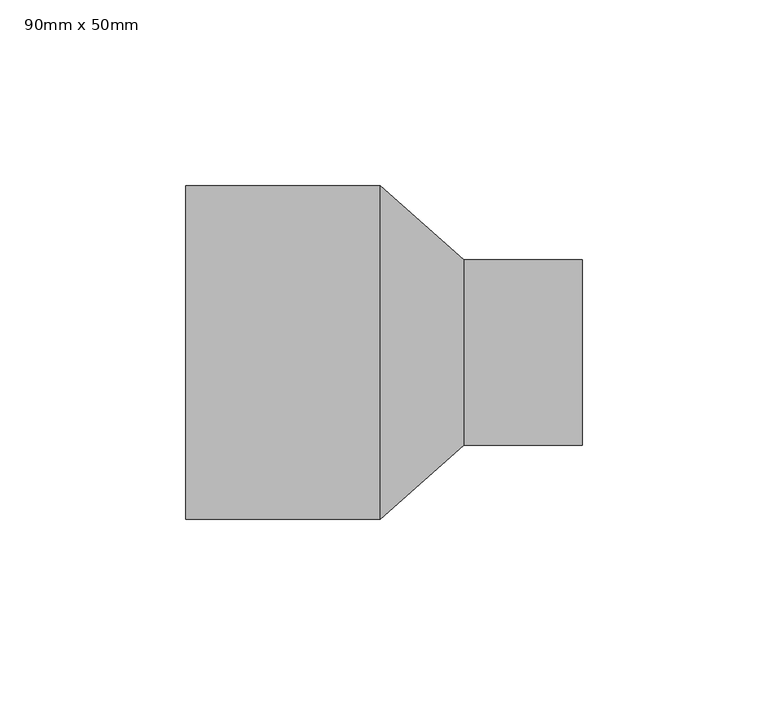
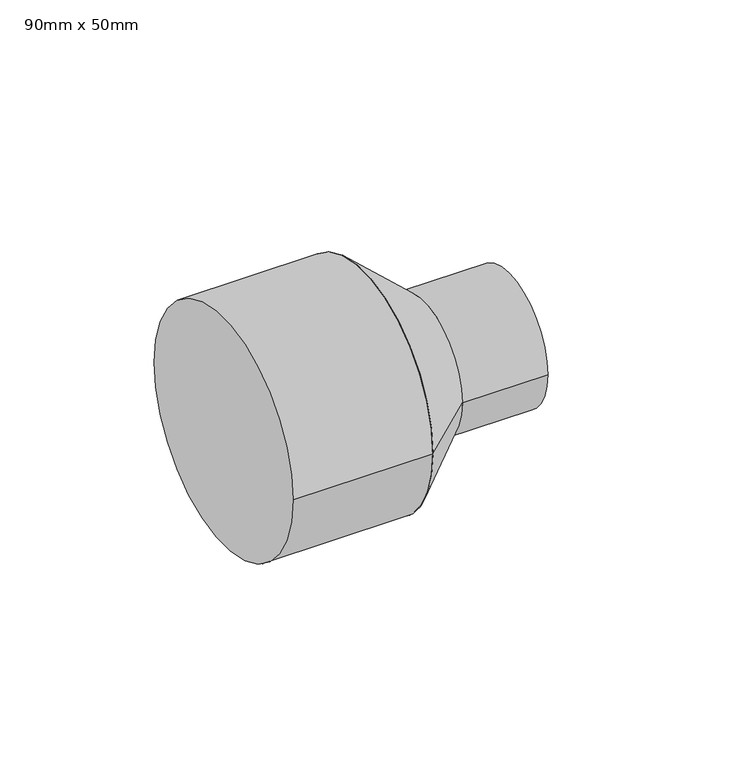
"""IFC4 building model written with IfcOpenShell, lengths in millimetres: pipe fitting geometry, PipeFitting_HTA_CPVC_ReducingBushesLongPattern : 90mm x 50mm."""

from ifc_helpers import new_model, si_unit, point, frame, origin, origin_2d, place, context, project, spatial, polyline, circle_curve, trimmed, segment, composite_curve, outline, extrude, source, transform, mapped, element, save
from ifc_brep_helpers import plane_surface, revolved_surface, advanced_brep


def pipe_fitting_90mm_x_50mm_9f9c04bd(model_context):
    return source(origin(), model_context, "Body", "SolidModel", [
        advanced_brep(
        [(75.0, -25.0, 0.0), (75.0, 25.0, 0.0), (52.5, -45.0, 0.0), (52.5, 45.0, 0.0)],
        [
            (0, 1, circle_curve(frame((75.0, 0.0, 0.0), z_axis=(1.0, 0.0, 0.0), x_axis=(0.0, -1.0, 0.0)), 25.0)),
            (1, 0, circle_curve(frame((75.0, 0.0, 0.0), z_axis=(1.0, 0.0, 0.0), x_axis=(0.0, 1.0, 0.0)), 25.0)),
            (2, 3, circle_curve(frame((52.5, 0.0, 0.0), z_axis=(-1.0, 0.0, 0.0), x_axis=(0.0, 1.0, 0.0)), 45.0)),
            (3, 2, circle_curve(frame((52.5, 0.0, 0.0), z_axis=(-1.0, 0.0, 0.0), x_axis=(0.0, -1.0, 0.0)), 45.0)),
            (3, 1),
            (0, 2),
        ],
        [
            plane_surface(frame((75.0, 0.0, 0.0), z_axis=(1.0, 0.0, 0.0), x_axis=(0.0, 0.0, -1.0))),
            plane_surface(frame((52.5, 0.0, 0.0), z_axis=(-1.0, 0.0, 0.0), x_axis=(0.0, 0.0, -1.0))),
            revolved_surface(polyline([(75.0, -25.0, 0.0), (52.5, -45.0, 0.0)]), (103.125, 0.0, 0.0), (-1.0, 0.0, 0.0)),
            revolved_surface(polyline([(75.0, 25.0, 0.0), (52.5, 45.0, 0.0)]), (103.125, 0.0, 0.0), (-1.0, 0.0, 0.0)),
        ],
        [
            (0, [[1, 2]]),
            (1, [[3, 4]]),
            (2, [[-4, 5, -1, 6]]),
            (3, [[-3, -6, -2, -5]]),
        ],
    ),
        extrude(outline(composite_curve([segment(trimmed(circle_curve(origin_2d(), 25.0), [point((-25.0, 0.0))], [point((25.0, 0.0))], False, "CARTESIAN"), True, "CONTINUOUS"), segment(trimmed(circle_curve(origin_2d(), 25.0), [point((25.0, 0.0))], [point((-25.0, 0.0))], False, "CARTESIAN"), True, "CONTINUOUS")], self_intersect=False)), frame((75.0, 0.0, 0.0), z_axis=(1.0, 0.0, 0.0), x_axis=(0.0, 1.0, 0.0)), (0.0, 0.0, 1.0), 32.0),
        extrude(outline(composite_curve([segment(trimmed(circle_curve(origin_2d(), 45.0), [point((-45.0, 0.0))], [point((45.0, 0.0))], False, "CARTESIAN"), True, "CONTINUOUS"), segment(trimmed(circle_curve(origin_2d(), 45.0), [point((45.0, 0.0))], [point((-45.0, 0.0))], False, "CARTESIAN"), True, "CONTINUOUS")], self_intersect=False)), frame((0.0, 0.0, 0.0), z_axis=(1.0, 0.0, 0.0), x_axis=(0.0, 1.0, 0.0)), (0.0, 0.0, 1.0), 52.5),
    ])


if __name__ == "__main__":
    model = new_model("IFC4")
    model_context = context("Model", 3, world=origin())
    ifc_project = project(units=[si_unit("LENGTHUNIT", "METRE", prefix="MILLI")], contexts=[model_context])
    site = spatial("IfcSite", under=ifc_project)
    building = spatial("IfcBuilding", under=site)
    placement = place(None, origin())
    pipe_fitting_90mm_x_50mm_shape = pipe_fitting_90mm_x_50mm_9f9c04bd(model_context)
    element("IfcPipeFitting", 1, ObjectType="PipeFitting_HTA_CPVC_ReducingBushesLongPattern : 90mm x 50mm", at=placement, inside=building, context=model_context, shape_type="MappedRepresentation", body=[
        mapped(pipe_fitting_90mm_x_50mm_shape, transform((0.0, 0.0, 0.0), x_axis=(1.0, 0.0, 0.0), y_axis=(0.0, 1.0, 0.0), z_axis=(0.0, 0.0, 1.0))),
    ])
    save(model, "model.ifc")
